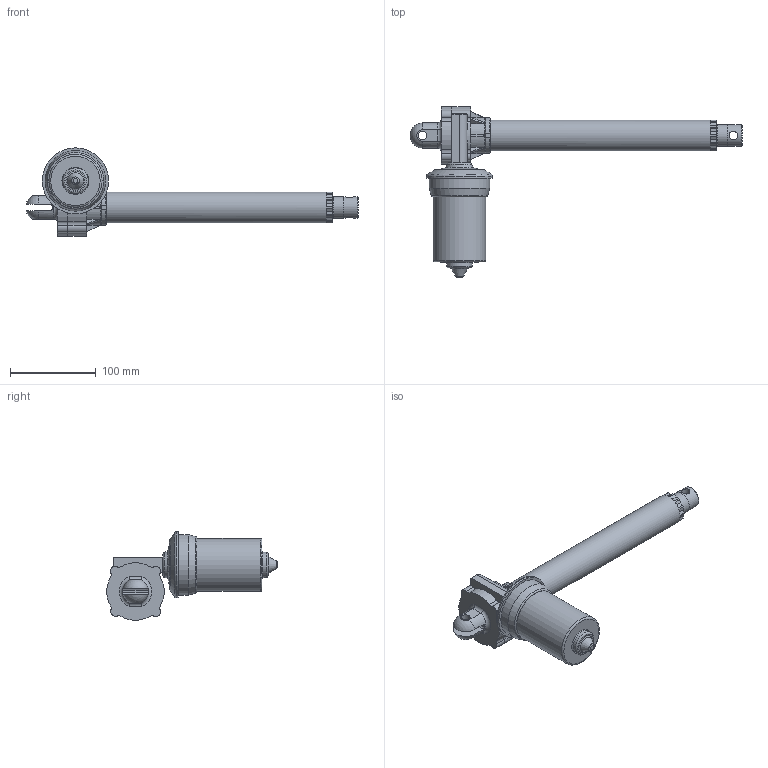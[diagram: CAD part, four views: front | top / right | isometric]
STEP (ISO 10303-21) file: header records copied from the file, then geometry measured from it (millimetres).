
FILE_DESCRIPTION(/* description */ ('STEP AP203'),/* implementation_level */ '2;1');
FILE_NAME(/* name */ 'ALI3_250_0_M04_CC-24-61_5-5000__TIPOX._0_E01__1_1',/* time_stamp */ '2026-05-08T14:56:06+02:00',/* author */ ('License CC BY-ND 4.0'),/* organization */ ('CADENAS'),/* preprocessor_version */ 'ST-DEVELOPER v20',/* originating_system */ 'PARTsolutions',/* authorisation */ ' ');
FILE_SCHEMA (('CONFIG_CONTROL_DESIGN'));
Length unit declared in the file: millimetre
Products named in the file (6): ALI3/250/0/M04/CC-24-61,5-5000/$TIPOX./0/E01//1/1/////; corpo_ALI3.250.0.01; AP_ALI32; CD012.0010-G; asta_ALI3.250; C1
Assembly tree (6 placements, depth 2):
  ALI3/250/0/M04/CC-24-61,5-5000/$TIPOX./0/E01//1/1/////
    corpo_ALI3.250.0.01
    AP_ALI32
    CD012.0010-G
    asta_ALI3.250
    C1  x2
Bounding box: 386.59 x 198.41 x 102.91 mm (x, y, z)
Volume: 829692.1 mm3; surface area: 152308.4 mm2
Topology: 6 solids, 6 shells, 200 faces, 512 edges, 328 vertices
Faces by surface type: plane 102, cylinder 58, cone 25, torus 13, sphere 2
Full cylindrical faces by diameter (mm): 10 x4, 25 x4, 29.5 x1, 36 x1, 42 x1, 61.5 x1, 70.5 x1, 77 x1
Entity records: 5963 total; most frequent: CARTESIAN_POINT 1178, DIRECTION 1012, ORIENTED_EDGE 928, EDGE_CURVE 464, AXIS2_PLACEMENT_3D 394, VERTEX_POINT 315, EDGE_LOOP 237, FACE_BOUND 237
